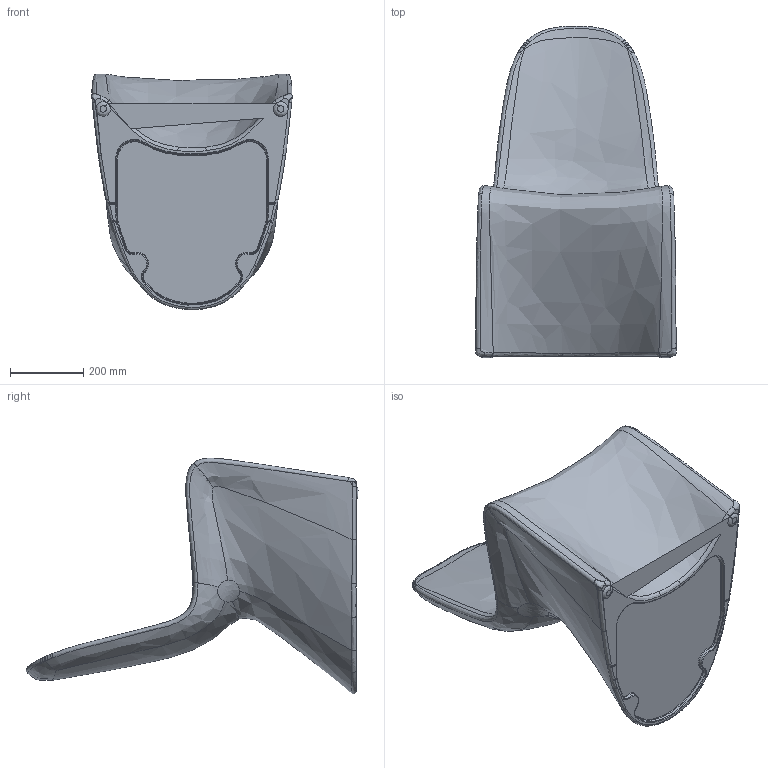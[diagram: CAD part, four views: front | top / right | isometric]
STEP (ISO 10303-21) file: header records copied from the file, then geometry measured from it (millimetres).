
FILE_DESCRIPTION(/* description */ (''),/* implementation_level */ '2;1');
FILE_NAME(/* name */ 'Ryno Dining Chair 2.0 (Simplified).stp',/* time_stamp */ '2025-10-31T16:16:25Z',/* author */ ('Mark.Glazzard'),/* organization */ (''),/* preprocessor_version */ 'ST-DEVELOPER v20',/* originating_system */ 'Autodesk Inventor 2025',/* authorisation */ '');
FILE_SCHEMA (('AUTOMOTIVE_DESIGN { 1 0 10303 214 3 1 1 }'));
Products named in the file (1): Ryno Dining Chair 2.0 (Simplified)
Bounding box: 547.81 x 907.92 x 644.92 mm (x, y, z)
Volume: 88692022.1 mm3; surface area: 1676707.6 mm2
Topology: 1 solids, 1 shells, 167 faces, 478 edges, 311 vertices
Faces by surface type: bspline 132, cylinder 16, plane 13, torus 4, cone 2
Entity records: 39666 total; most frequent: CARTESIAN_POINT 36176, ORIENTED_EDGE 952, EDGE_CURVE 476, B_SPLINE_CURVE_WITH_KNOTS 346, VERTEX_POINT 311, DIRECTION 288, STYLED_ITEM 168, FACE_OUTER_BOUND 167
